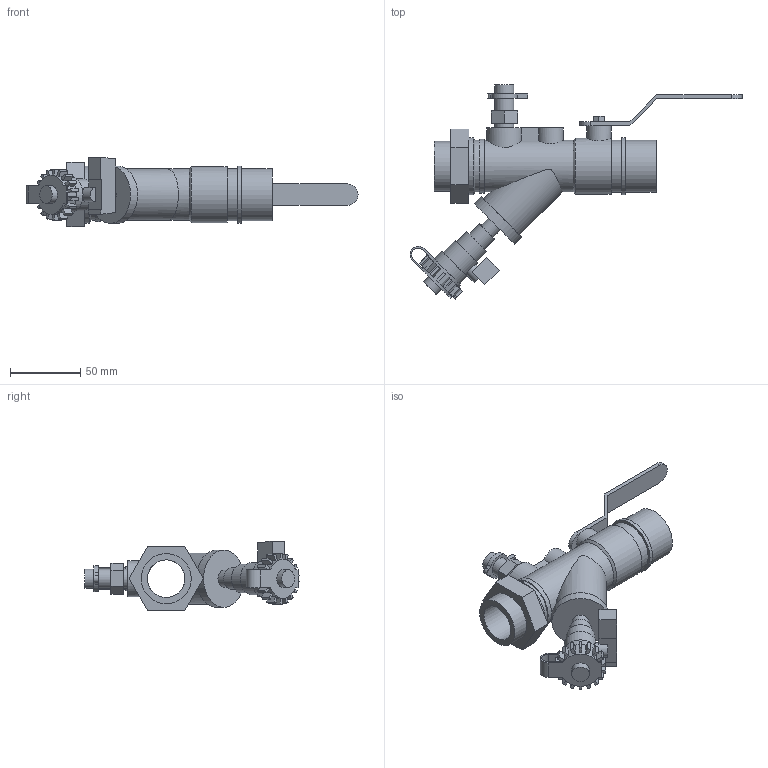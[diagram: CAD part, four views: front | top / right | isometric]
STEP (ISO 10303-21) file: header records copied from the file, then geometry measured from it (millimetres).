
FILE_DESCRIPTION(/* description */ ('VIC Y-STRAINER/BALL SERIES 78Y (FPT)','CAx-IF Rec.Pracs.---Representation and Presentation of Product Manufacturing Information (PMI)---4.0---2014-10-13'),/* implementation_level */ '2;1');
FILE_NAME(/* name */ 'C:\Users\kkamble\Desktop\extraction\OldVersions\Victaulic_IPS_Valve Ball Y Strainer Combination_Series 78Y (FPT)\Victaulic_IPS_Valve Ball Y Strainer Combination_Series 78Y (FPT)_01.0x0.75 (25x20).stp',/* time_stamp */ '2020-10-19T10:38:54+05:00',/* author */ ('kkamble'),/* organization */ ('Victaulic'),/* preprocessor_version */ 'ST-DEVELOPER v17.2',/* originating_system */ 'Autodesk Inventor 2019',/* authorisation */ '');
FILE_SCHEMA (('AP242_MANAGED_MODEL_BASED_3D_ENGINEERING_MIM_LF { 1 0 10303 442 1 1 4 }'));
Length unit declared in the file: inch
Products named in the file (1): 78Y-1.0x0.75
Bounding box: 235.7 x 151.95 x 49.53 mm (x, y, z)
Volume: 117887.7 mm3; surface area: 69987.7 mm2
Topology: 2 solids, 3 shells, 232 faces, 575 edges, 388 vertices
Faces by surface type: plane 164, cylinder 66, cone 2
Full cylindrical faces by diameter (mm): 10.16 x1, 10.998 x1, 11.887 x1, 12.565 x1, 13.462 x5, 15.24 x1, 17.272 x1, 20.32 x1, 22.86 x1, 25.4 x1, 26.67 x1, 27.94 x1, 33.401 x2, 35.56 x1, 36.322 x1, 36.576 x2, 36.83 x2, 38.1 x1, 39.624 x1, 40.64 x3
Entity records: 7837 total; most frequent: CARTESIAN_POINT 1897, DIRECTION 1232, ORIENTED_EDGE 1150, EDGE_CURVE 575, AXIS2_PLACEMENT_3D 440, VERTEX_POINT 388, LINE 352, VECTOR 352
